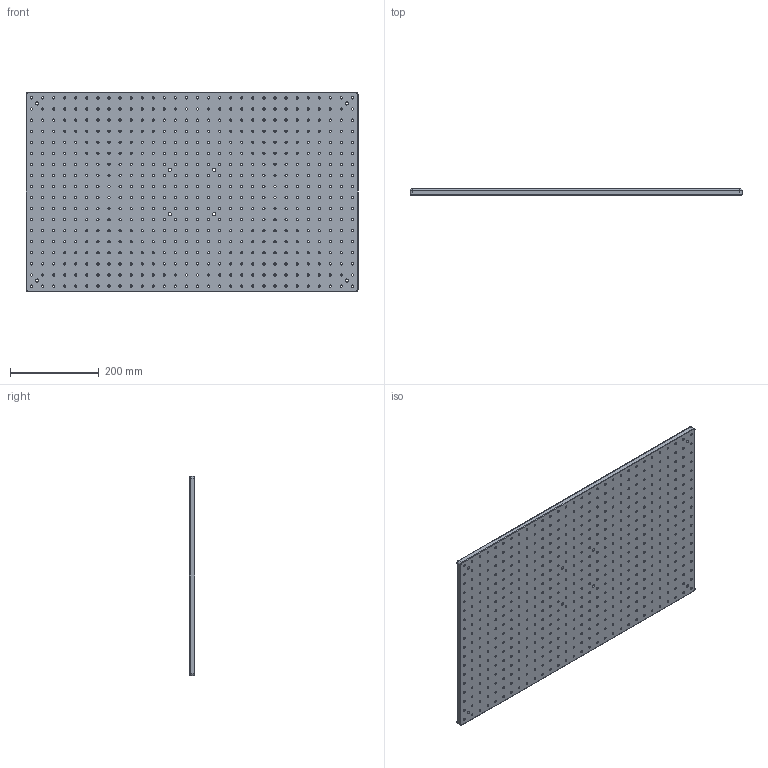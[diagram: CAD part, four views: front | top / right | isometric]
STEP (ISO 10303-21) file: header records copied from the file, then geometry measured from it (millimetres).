
FILE_DESCRIPTION (( 'STEP AP203' ), '1' );
FILE_NAME ('M-SAB-4575-13.step', '2017-01-10T01:16:14', ( '¦K¬P' ), ( '' ), 'SwSTEP 2.0', 'SolidWorks 2012', '' );
FILE_SCHEMA (( 'CONFIG_CONTROL_DESIGN' ));
Length unit declared in the file: millimetre
Products named in the file (1): M-SAB-4575-13
Bounding box: 750 x 13 x 450 mm (x, y, z)
Volume: 4237362.4 mm3; surface area: 793314.3 mm2
Topology: 1 solids, 1 shells, 590 faces, 1724 edges, 1144 vertices
Faces by surface type: cylinder 568, plane 14, torus 8
Full cylindrical faces by diameter (mm): 5 x540, 7 x8, 11 x8
Entity records: 19733 total; most frequent: DIRECTION 3494, CARTESIAN_POINT 2903, ORIENTED_EDGE 2336, EDGE_LOOP 2250, AXIS2_PLACEMENT_3D 1735, EDGE_CURVE 1168, FACE_OUTER_BOUND 1146, VERTEX_POINT 1144
